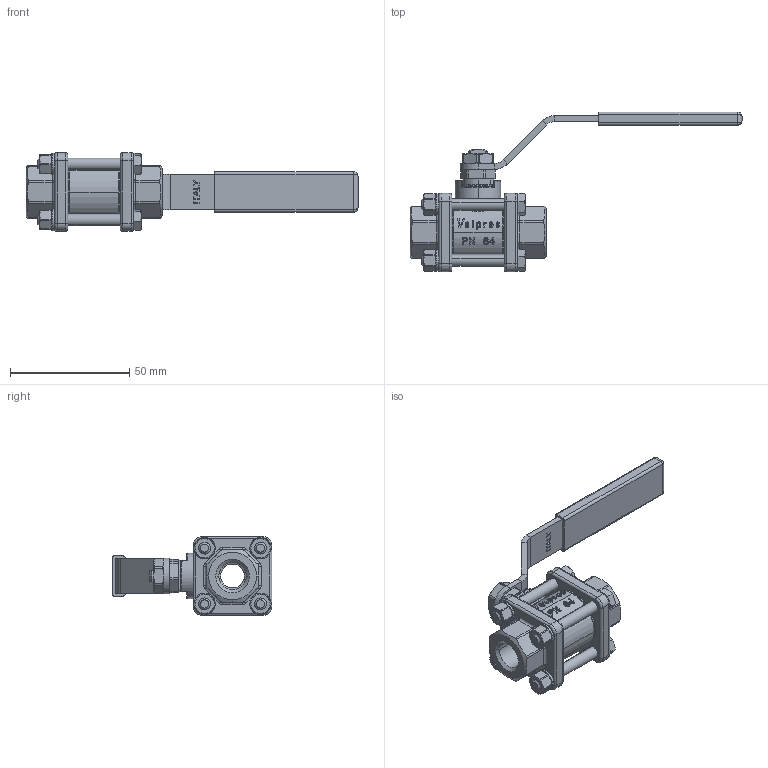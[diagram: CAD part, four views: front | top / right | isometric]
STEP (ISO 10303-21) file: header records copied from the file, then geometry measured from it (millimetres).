
FILE_DESCRIPTION (( 'STEP AP203' ), '1' );
FILE_NAME ('71000002.STEP', '2008-04-01T15:59:44', ( '.' ), ( '.' ), 'SwSTEP 2.0', 'SolidWorks 2007', '' );
FILE_SCHEMA (( 'CONFIG_CONTROL_DESIGN' ));
Length unit declared in the file: millimetre
Products named in the file (1): 71000002
Bounding box: 139 x 66.95 x 33 mm (x, y, z)
Volume: 45322.4 mm3; surface area: 22938.8 mm2
Topology: 2 solids, 2 shells, 1109 faces, 2792 edges, 1737 vertices
Faces by surface type: plane 372, cylinder 280, bspline 248, cone 209
Entity records: 61209 total; most frequent: CARTESIAN_POINT 36532, ORIENTED_EDGE 5562, DIRECTION 4516, EDGE_CURVE 2781, VERTEX_POINT 1737, AXIS2_PLACEMENT_3D 1715, EDGE_LOOP 1204, FACE_OUTER_BOUND 1109
